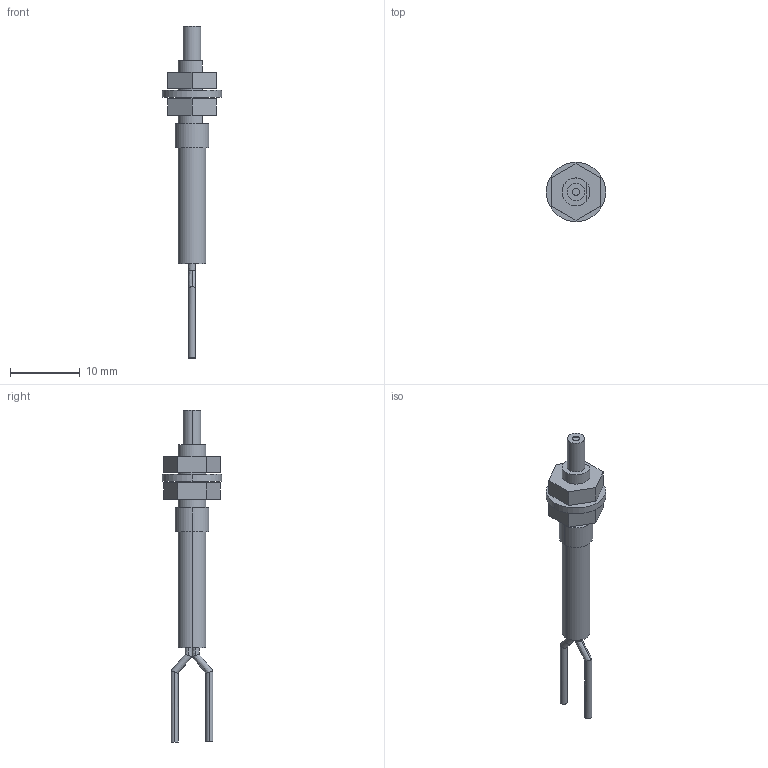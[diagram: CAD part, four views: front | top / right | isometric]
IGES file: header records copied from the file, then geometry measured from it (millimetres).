
Start section: SolidWorks IGES FILE using analytic representation for surfaces
Global section: file name: C:\Documents and Settings\yk0651\デスクトップ\3D_catalog_050904\0_IGES\FD-NFM2.IGS; native system: SolidWorks 2004 by SolidWorks Corporation; preprocessor: Version 5.3; author: yk0651; date: 050904.190852; units: millimetre
Bounding box: 8.5 x 8.5 x 47.5 mm (x, y, z)
Volume: 644.4 mm3; surface area: 1020 mm2
Topology: 5 solids, 5 shells, 57 faces, 126 edges, 84 vertices
Faces by surface type: revolution 29, plane 28
